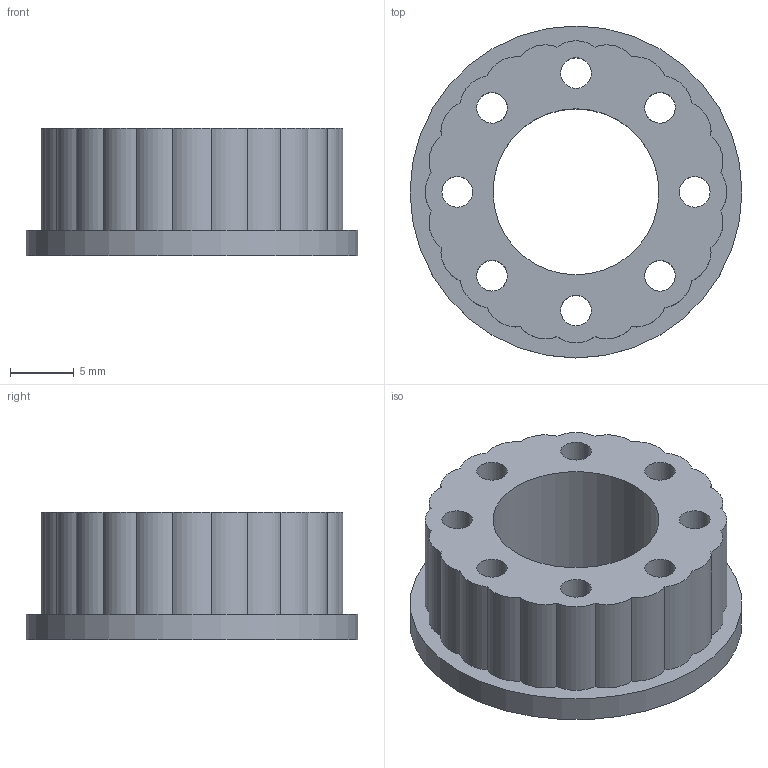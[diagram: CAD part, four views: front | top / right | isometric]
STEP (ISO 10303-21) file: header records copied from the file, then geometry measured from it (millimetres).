
FILE_DESCRIPTION((''),'2;1');
FILE_NAME('I:\Gleitlager\Vertrieb\Labor\robolink\Vertrieb-Tim\Step Daten\RL-TEP-26-01-08.stp','2011-08-03T12:04:35',('MRaak'),(''),'Autodesk Inventor 2011','Autodesk Inventor 2011','');
FILE_SCHEMA(('AUTOMOTIVE_DESIGN { 1 0 10303 214 1 1 1 1 }'));
Length unit declared in the file: millimetre
Products named in the file (1): Seilführung-05
Bounding box: 26 x 26 x 10 mm (x, y, z)
Volume: 2811.8 mm3; surface area: 2512.2 mm2
Topology: 1 solids, 1 shells, 37 faces, 110 edges, 76 vertices
Faces by surface type: cylinder 34, plane 3
Full cylindrical faces by diameter (mm): 2.4 x8, 13 x1, 26 x1
Entity records: 1236 total; most frequent: DIRECTION 236, CARTESIAN_POINT 198, ORIENTED_EDGE 184, AXIS2_PLACEMENT_3D 106, EDGE_CURVE 92, VERTEX_POINT 68, CIRCLE 68, EDGE_LOOP 66
